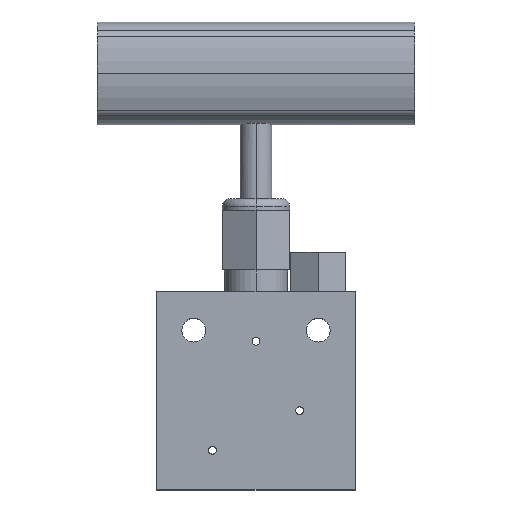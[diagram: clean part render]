
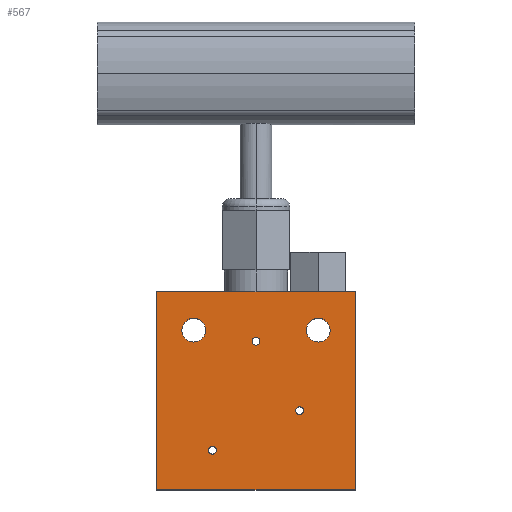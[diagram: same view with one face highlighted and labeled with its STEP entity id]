
A CAD part, top view. The second image highlights one B-rep face of the part: STEP entity #567.
In plain terms, the highlighted planar face has unit normal (0, 0, 1).
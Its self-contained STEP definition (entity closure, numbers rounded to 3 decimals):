
#7 = CIRCLE ( 'NONE', #492, 1. ) ;
#8 = CARTESIAN_POINT ( 'NONE',  ( -25., 25., 10. ) ) ;
#10 = DIRECTION ( 'NONE',  ( 0., 0., 1. ) ) ;
#30 = DIRECTION ( 'NONE',  ( 0., -1., 0. ) ) ;
#49 = CARTESIAN_POINT ( 'NONE',  ( -18.7, 15.3, 10. ) ) ;
#78 = AXIS2_PLACEMENT_3D ( 'NONE', #778, #112, #333 ) ;
#87 = CARTESIAN_POINT ( 'NONE',  ( -10., -15., 10. ) ) ;
#112 = DIRECTION ( 'NONE',  ( 0., 0., 1. ) ) ;
#121 = EDGE_CURVE ( 'NONE', #664, #1055, #1540, .T. ) ;
#149 = VECTOR ( 'NONE', #30, 1000. ) ;
#152 = DIRECTION ( 'NONE',  ( 0., 0., 1. ) ) ;
#162 = ORIENTED_EDGE ( 'NONE', *, *, #736, .T. ) ;
#173 = CARTESIAN_POINT ( 'NONE',  ( 12.7, 15.3, 10. ) ) ;
#210 = CARTESIAN_POINT ( 'NONE',  ( -11., -15., 10. ) ) ;
#252 = CARTESIAN_POINT ( 'NONE',  ( -12., -15., 10. ) ) ;
#258 = DIRECTION ( 'NONE',  ( 1., 0., 0. ) ) ;
#275 = CARTESIAN_POINT ( 'NONE',  ( 15.7, 15.3, 10. ) ) ;
#289 = CIRCLE ( 'NONE', #2577, 1. ) ;
#292 = FACE_BOUND ( 'NONE', #2733, .T. ) ;
#323 = EDGE_CURVE ( 'NONE', #651, #1791, #7, .T. ) ;
#327 = EDGE_CURVE ( 'NONE', #342, #2532, #289, .T. ) ;
#333 = DIRECTION ( 'NONE',  ( 1., 0., 0. ) ) ;
#342 = VERTEX_POINT ( 'NONE', #252 ) ;
#350 = DIRECTION ( 'NONE',  ( 1., 0., 0. ) ) ;
#352 = ORIENTED_EDGE ( 'NONE', *, *, #2747, .T. ) ;
#359 = EDGE_CURVE ( 'NONE', #1444, #806, #1866, .T. ) ;
#384 = AXIS2_PLACEMENT_3D ( 'NONE', #706, #490, #2203 ) ;
#402 = VERTEX_POINT ( 'NONE', #49 ) ;
#408 = EDGE_LOOP ( 'NONE', ( #2086, #2665 ) ) ;
#414 = CARTESIAN_POINT ( 'NONE',  ( 25., 25., 10. ) ) ;
#438 = EDGE_LOOP ( 'NONE', ( #798, #2524 ) ) ;
#486 = CIRCLE ( 'NONE', #2745, 1. ) ;
#490 = DIRECTION ( 'NONE',  ( 0., 0., -1. ) ) ;
#492 = AXIS2_PLACEMENT_3D ( 'NONE', #1744, #10, #2211 ) ;
#535 = AXIS2_PLACEMENT_3D ( 'NONE', #1950, #1297, #1935 ) ;
#567 = ADVANCED_FACE ( 'NONE', ( #292, #1835, #1045, #1333, #2421, #674 ), #1884, .T. ) ;
#584 = CARTESIAN_POINT ( 'NONE',  ( -25., 25., 10. ) ) ;
#646 = EDGE_LOOP ( 'NONE', ( #1860, #352, #2442, #162 ) ) ;
#651 = VERTEX_POINT ( 'NONE', #2135 ) ;
#664 = VERTEX_POINT ( 'NONE', #173 ) ;
#671 = CARTESIAN_POINT ( 'NONE',  ( -15.7, 15.3, 10. ) ) ;
#674 = FACE_OUTER_BOUND ( 'NONE', #646, .T. ) ;
#701 = ORIENTED_EDGE ( 'NONE', *, *, #881, .F. ) ;
#706 = CARTESIAN_POINT ( 'NONE',  ( 15.7, 15.3, 10. ) ) ;
#707 = VECTOR ( 'NONE', #2825, 1000. ) ;
#733 = DIRECTION ( 'NONE',  ( 0., 1., 0. ) ) ;
#734 = DIRECTION ( 'NONE',  ( -1., 0., 0. ) ) ;
#736 = EDGE_CURVE ( 'NONE', #806, #2754, #742, .T. ) ;
#742 = LINE ( 'NONE', #2631, #707 ) ;
#778 = CARTESIAN_POINT ( 'NONE',  ( 0., 12.5, 10. ) ) ;
#798 = ORIENTED_EDGE ( 'NONE', *, *, #2152, .F. ) ;
#806 = VERTEX_POINT ( 'NONE', #1395 ) ;
#825 = CIRCLE ( 'NONE', #535, 3. ) ;
#863 = EDGE_CURVE ( 'NONE', #2754, #1766, #1917, .T. ) ;
#872 = VERTEX_POINT ( 'NONE', #2111 ) ;
#879 = DIRECTION ( 'NONE',  ( 0., 0., 1. ) ) ;
#881 = EDGE_CURVE ( 'NONE', #1272, #1466, #2506, .T. ) ;
#885 = DIRECTION ( 'NONE',  ( 0., 0., 1. ) ) ;
#906 = DIRECTION ( 'NONE',  ( 0., 0., 1. ) ) ;
#987 = CIRCLE ( 'NONE', #2131, 1. ) ;
#1045 = FACE_BOUND ( 'NONE', #438, .T. ) ;
#1055 = VERTEX_POINT ( 'NONE', #2450 ) ;
#1109 = ORIENTED_EDGE ( 'NONE', *, *, #1312, .F. ) ;
#1116 = AXIS2_PLACEMENT_3D ( 'NONE', #275, #1177, #734 ) ;
#1156 = CARTESIAN_POINT ( 'NONE',  ( 25., 25., 10. ) ) ;
#1177 = DIRECTION ( 'NONE',  ( 0., 0., -1. ) ) ;
#1225 = CARTESIAN_POINT ( 'NONE',  ( 0., 0., 10. ) ) ;
#1272 = VERTEX_POINT ( 'NONE', #2608 ) ;
#1286 = CIRCLE ( 'NONE', #2226, 3. ) ;
#1297 = DIRECTION ( 'NONE',  ( 0., 0., 1. ) ) ;
#1312 = EDGE_CURVE ( 'NONE', #872, #402, #1286, .T. ) ;
#1333 = FACE_BOUND ( 'NONE', #408, .T. ) ;
#1346 = DIRECTION ( 'NONE',  ( 1., 0., 0. ) ) ;
#1394 = VECTOR ( 'NONE', #733, 1000. ) ;
#1395 = CARTESIAN_POINT ( 'NONE',  ( -25., -25., 10. ) ) ;
#1444 = VERTEX_POINT ( 'NONE', #8 ) ;
#1466 = VERTEX_POINT ( 'NONE', #2732 ) ;
#1519 = EDGE_CURVE ( 'NONE', #1055, #664, #2367, .T. ) ;
#1522 = DIRECTION ( 'NONE',  ( 0., 0., 1. ) ) ;
#1539 = VECTOR ( 'NONE', #2106, 1000. ) ;
#1540 = CIRCLE ( 'NONE', #384, 3. ) ;
#1553 = ORIENTED_EDGE ( 'NONE', *, *, #1934, .F. ) ;
#1569 = DIRECTION ( 'NONE',  ( 1., 0., 0. ) ) ;
#1575 = CARTESIAN_POINT ( 'NONE',  ( -11., -15., 10. ) ) ;
#1579 = ORIENTED_EDGE ( 'NONE', *, *, #1740, .F. ) ;
#1614 = LINE ( 'NONE', #584, #1539 ) ;
#1686 = DIRECTION ( 'NONE',  ( 1., 0., 0. ) ) ;
#1740 = EDGE_CURVE ( 'NONE', #1466, #1272, #987, .T. ) ;
#1744 = CARTESIAN_POINT ( 'NONE',  ( 0., 12.5, 10. ) ) ;
#1749 = CIRCLE ( 'NONE', #78, 1. ) ;
#1766 = VERTEX_POINT ( 'NONE', #414 ) ;
#1791 = VERTEX_POINT ( 'NONE', #2576 ) ;
#1835 = FACE_BOUND ( 'NONE', #2148, .T. ) ;
#1860 = ORIENTED_EDGE ( 'NONE', *, *, #863, .T. ) ;
#1866 = LINE ( 'NONE', #2256, #149 ) ;
#1884 = PLANE ( 'NONE',  #2389 ) ;
#1898 = CARTESIAN_POINT ( 'NONE',  ( 11., -5., 10. ) ) ;
#1917 = LINE ( 'NONE', #1156, #1394 ) ;
#1934 = EDGE_CURVE ( 'NONE', #2532, #342, #486, .T. ) ;
#1935 = DIRECTION ( 'NONE',  ( 1., 0., 0. ) ) ;
#1950 = CARTESIAN_POINT ( 'NONE',  ( -15.7, 15.3, 10. ) ) ;
#2086 = ORIENTED_EDGE ( 'NONE', *, *, #1519, .T. ) ;
#2097 = DIRECTION ( 'NONE',  ( 0., 0., 1. ) ) ;
#2106 = DIRECTION ( 'NONE',  ( -1., 0., 0. ) ) ;
#2111 = CARTESIAN_POINT ( 'NONE',  ( -12.7, 15.3, 10. ) ) ;
#2131 = AXIS2_PLACEMENT_3D ( 'NONE', #2402, #1522, #2587 ) ;
#2135 = CARTESIAN_POINT ( 'NONE',  ( -1., 12.5, 10. ) ) ;
#2148 = EDGE_LOOP ( 'NONE', ( #1553, #2472 ) ) ;
#2152 = EDGE_CURVE ( 'NONE', #1791, #651, #1749, .T. ) ;
#2203 = DIRECTION ( 'NONE',  ( -1., 0., 0. ) ) ;
#2211 = DIRECTION ( 'NONE',  ( 1., 0., 0. ) ) ;
#2226 = AXIS2_PLACEMENT_3D ( 'NONE', #671, #885, #258 ) ;
#2256 = CARTESIAN_POINT ( 'NONE',  ( -25., 25., 10. ) ) ;
#2306 = CARTESIAN_POINT ( 'NONE',  ( 25., -25., 10. ) ) ;
#2367 = CIRCLE ( 'NONE', #1116, 3. ) ;
#2389 = AXIS2_PLACEMENT_3D ( 'NONE', #1225, #2097, #1686 ) ;
#2402 = CARTESIAN_POINT ( 'NONE',  ( 11., -5., 10. ) ) ;
#2421 = FACE_BOUND ( 'NONE', #2431, .T. ) ;
#2431 = EDGE_LOOP ( 'NONE', ( #1109, #2477 ) ) ;
#2442 = ORIENTED_EDGE ( 'NONE', *, *, #359, .T. ) ;
#2450 = CARTESIAN_POINT ( 'NONE',  ( 18.7, 15.3, 10. ) ) ;
#2452 = EDGE_CURVE ( 'NONE', #402, #872, #825, .T. ) ;
#2472 = ORIENTED_EDGE ( 'NONE', *, *, #327, .F. ) ;
#2477 = ORIENTED_EDGE ( 'NONE', *, *, #2452, .F. ) ;
#2506 = CIRCLE ( 'NONE', #2800, 1. ) ;
#2524 = ORIENTED_EDGE ( 'NONE', *, *, #323, .F. ) ;
#2532 = VERTEX_POINT ( 'NONE', #87 ) ;
#2576 = CARTESIAN_POINT ( 'NONE',  ( 1., 12.5, 10. ) ) ;
#2577 = AXIS2_PLACEMENT_3D ( 'NONE', #210, #879, #1569 ) ;
#2587 = DIRECTION ( 'NONE',  ( 1., 0., 0. ) ) ;
#2608 = CARTESIAN_POINT ( 'NONE',  ( 12., -5., 10. ) ) ;
#2631 = CARTESIAN_POINT ( 'NONE',  ( -25., -25., 10. ) ) ;
#2665 = ORIENTED_EDGE ( 'NONE', *, *, #121, .T. ) ;
#2732 = CARTESIAN_POINT ( 'NONE',  ( 10., -5., 10. ) ) ;
#2733 = EDGE_LOOP ( 'NONE', ( #701, #1579 ) ) ;
#2745 = AXIS2_PLACEMENT_3D ( 'NONE', #1575, #906, #1346 ) ;
#2747 = EDGE_CURVE ( 'NONE', #1766, #1444, #1614, .T. ) ;
#2754 = VERTEX_POINT ( 'NONE', #2306 ) ;
#2800 = AXIS2_PLACEMENT_3D ( 'NONE', #1898, #152, #350 ) ;
#2825 = DIRECTION ( 'NONE',  ( 1., 0., 0. ) ) ;
